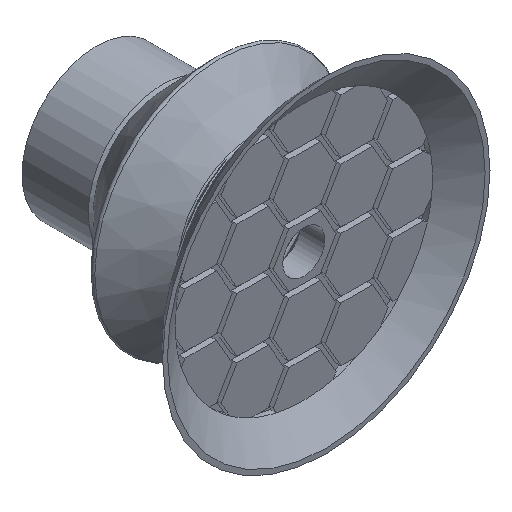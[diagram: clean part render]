
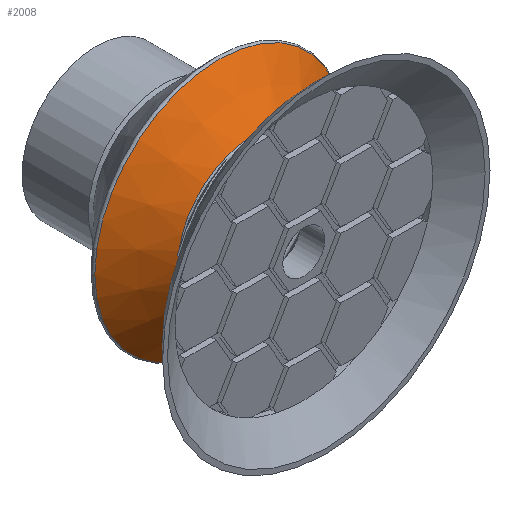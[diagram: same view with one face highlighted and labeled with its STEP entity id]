
A CAD part, isometric view. The second image highlights one B-rep face of the part: STEP entity #2008.
In plain terms, the highlighted conical face has half-angle 54.118 degrees and reference radius 11.25 mm.
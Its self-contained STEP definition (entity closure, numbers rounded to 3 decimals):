
#710 = DIRECTION ( 'NONE',  ( 0., 1., 0. ) ) ;
#1131 = CARTESIAN_POINT ( 'NONE',  ( 0., 6.46, 6.771 ) ) ;
#1195 = CARTESIAN_POINT ( 'NONE',  ( 0., 6.46, 0. ) ) ;
#1233 = DIRECTION ( 'NONE',  ( 0., 0., 1. ) ) ;
#1503 = VERTEX_POINT ( 'NONE', #1131 ) ;
#1626 = ORIENTED_EDGE ( 'NONE', *, *, #5738, .T. ) ;
#1673 = CIRCLE ( 'NONE', #5527, 6.771 ) ;
#1718 = VERTEX_POINT ( 'NONE', #5724 ) ;
#1862 = DIRECTION ( 'NONE',  ( 0., 0., -1. ) ) ;
#2008 = ADVANCED_FACE ( 'NONE', ( #3890, #4733 ), #5556, .T. ) ;
#2407 = AXIS2_PLACEMENT_3D ( 'NONE', #3616, #4954, #1862 ) ;
#2482 = DIRECTION ( 'NONE',  ( 0., 1., 0. ) ) ;
#2712 = EDGE_CURVE ( 'NONE', #1503, #1503, #1673, .T. ) ;
#3402 = DIRECTION ( 'NONE',  ( 0., 0., 1. ) ) ;
#3592 = AXIS2_PLACEMENT_3D ( 'NONE', #4791, #710, #1233 ) ;
#3616 = CARTESIAN_POINT ( 'NONE',  ( 0., 9.56, 0. ) ) ;
#3689 = ORIENTED_EDGE ( 'NONE', *, *, #2712, .T. ) ;
#3890 = FACE_BOUND ( 'NONE', #5646, .T. ) ;
#4195 = CIRCLE ( 'NONE', #2407, 11.056 ) ;
#4733 = FACE_OUTER_BOUND ( 'NONE', #5191, .T. ) ;
#4791 = CARTESIAN_POINT ( 'NONE',  ( 0., 9.7, 0. ) ) ;
#4954 = DIRECTION ( 'NONE',  ( 0., -1., 0. ) ) ;
#5191 = EDGE_LOOP ( 'NONE', ( #1626 ) ) ;
#5527 = AXIS2_PLACEMENT_3D ( 'NONE', #1195, #2482, #3402 ) ;
#5556 = CONICAL_SURFACE ( 'NONE', #3592, 11.25, 0.945 ) ;
#5646 = EDGE_LOOP ( 'NONE', ( #3689 ) ) ;
#5724 = CARTESIAN_POINT ( 'NONE',  ( 0., 9.56, -11.056 ) ) ;
#5738 = EDGE_CURVE ( 'NONE', #1718, #1718, #4195, .T. ) ;
